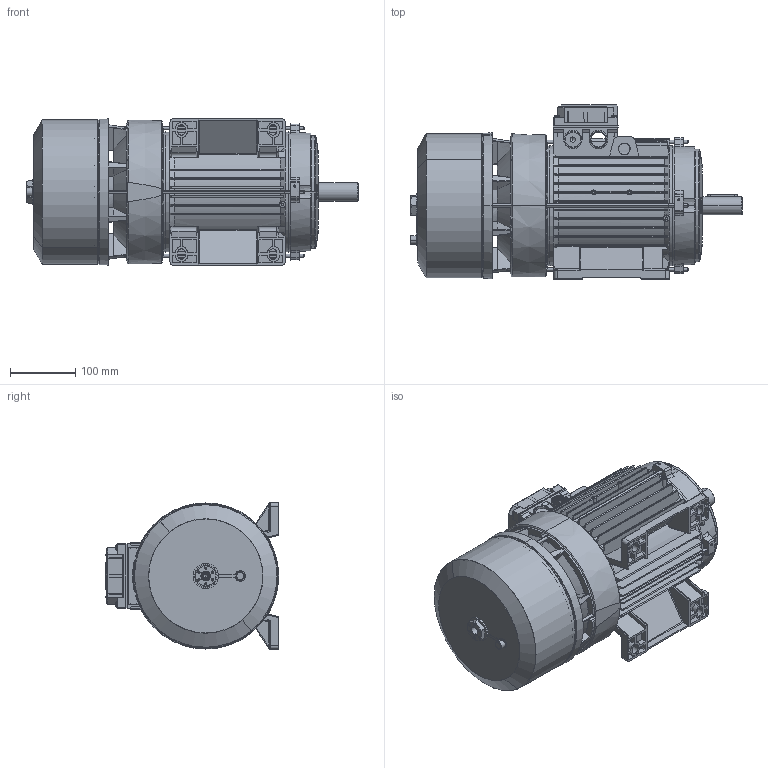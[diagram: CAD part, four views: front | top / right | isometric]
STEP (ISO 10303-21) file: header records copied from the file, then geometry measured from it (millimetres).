
FILE_DESCRIPTION (( 'STEP AP214' ), '1' );
FILE_NAME ('M02HA0012.STEP', '2019-09-20T09:33:13', ( '' ), ( '' ), 'SwSTEP 2.0', 'SolidWorks 2018', '' );
FILE_SCHEMA (( 'AUTOMOTIVE_DESIGN' ));
Length unit declared in the file: millimetre
Products named in the file (15): Coperchio per Scatola Singola 90 - 100 - 112; Tirante BA 112 - DBA60094; O-ring freno BA 112; Vite a Testa Esagona con foro e tappo 71-112 - Modificata; Scudo Lato Comando B3 BA-BM 112 - DFAD0194; Chiavetta 100-112; Cuffia serie BA 112; Convogliatore con pista di attrito P2 BA 112-6; Scudo Lato Freno BA 112 P1 - DFAE0094; Albero BA 112; Carcassa 112 B3; M02HA0012; Guarnizione Coperchio Semplice Scatola BA 90 100 112 - DDAL0094; Coperchio per Scatola Singola 90 - 100 - 112 con viti; Vite per coperchio morsettiera
Assembly tree (20 placements, depth 3):
  M02HA0012
    Carcassa 112 B3
    Albero BA 112
    Scudo Lato Freno BA 112 P1 - DFAE0094
    Convogliatore con pista di attrito P2 BA 112-6
    Cuffia serie BA 112
    Chiavetta 100-112
    Scudo Lato Comando B3 BA-BM 112 - DFAD0194
    Vite a Testa Esagona con foro e tappo 71-112 - Modificata
    O-ring freno BA 112
    Tirante BA 112 - DBA60094  x4
    Coperchio per Scatola Singola 90 - 100 - 112 con viti
      Coperchio per Scatola Singola 90 - 100 - 112
      Vite per coperchio morsettiera  x4
      Guarnizione Coperchio Semplice Scatola BA 90 100 112 - DDAL0094
Bounding box: 507.68 x 266 x 224 mm (x, y, z)
Volume: 2574168.8 mm3; surface area: 1358992.4 mm2
Topology: 23 solids, 23 shells, 3712 faces, 9835 edges, 6202 vertices
Faces by surface type: plane 1201, cylinder 1037, bspline 591, cone 505, torus 378
Entity records: 137888 total; most frequent: CARTESIAN_POINT 54224, ORIENTED_EDGE 18462, DIRECTION 14715, EDGE_CURVE 9231, VERTEX_POINT 5872, AXIS2_PLACEMENT_3D 5716, EDGE_LOOP 3661, ADVANCED_FACE 3454
